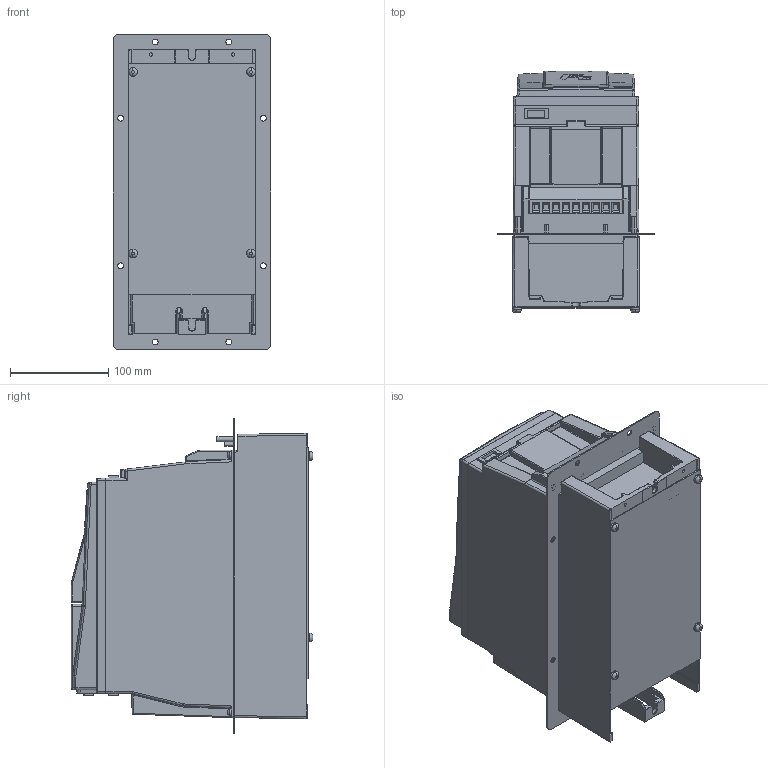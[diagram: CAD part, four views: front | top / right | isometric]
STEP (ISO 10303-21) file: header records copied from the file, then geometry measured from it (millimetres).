
FILE_DESCRIPTION (( 'STEP AP214' ), '1' );
FILE_NAME ('F6-2TR5-P050.STEP', '2020-11-30T09:25:05', ( '' ), ( '' ), 'SwSTEP 2.0', 'SolidWorks 2019', '' );
FILE_SCHEMA (( 'AUTOMOTIVE_DESIGN' ));
Length unit declared in the file: millimetre
Products named in the file (1): F6-2TR5-P050
Bounding box: 160 x 245.65 x 320 mm (x, y, z)
Volume: 7142910.8 mm3; surface area: 337513 mm2
Topology: 2 solids, 2 shells, 1318 faces, 3273 edges, 1956 vertices
Faces by surface type: plane 580, cylinder 376, bspline 229, torus 55, sphere 50, cone 28
Entity records: 46426 total; most frequent: CARTESIAN_POINT 17314, ORIENTED_EDGE 6418, DIRECTION 5474, EDGE_CURVE 3209, VERTEX_POINT 1956, AXIS2_PLACEMENT_3D 1847, VECTOR 1780, LINE 1780
